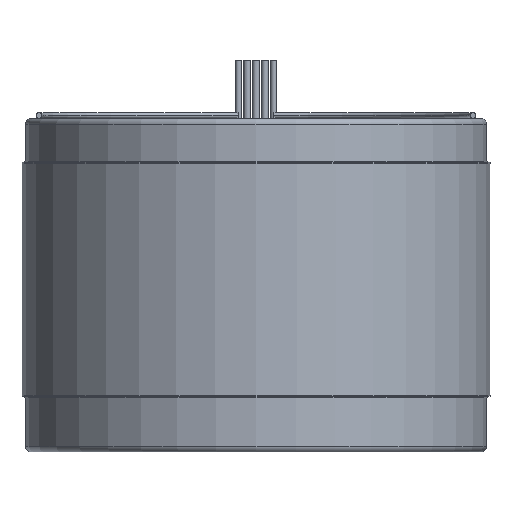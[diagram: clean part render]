
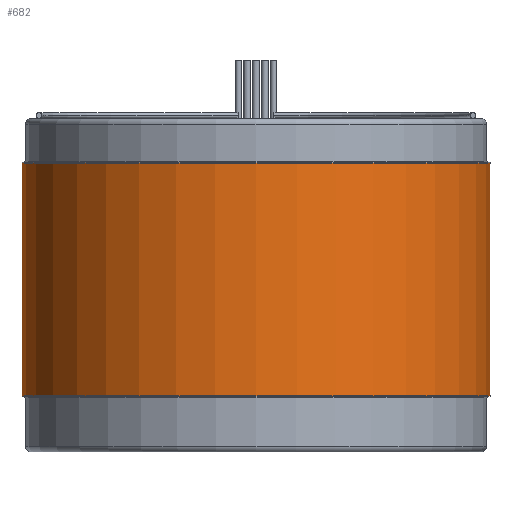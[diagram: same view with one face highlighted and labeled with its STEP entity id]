
A CAD part, front view. The second image highlights one B-rep face of the part: STEP entity #682.
In plain terms, the highlighted cylindrical face has radius 101.6 mm (diameter 203.2 mm), a partial arc.
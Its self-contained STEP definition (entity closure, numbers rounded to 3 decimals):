
#18 = DIRECTION ( 'NONE',  ( 0., 0., 1. ) ) ;
#102 = ORIENTED_EDGE ( 'NONE', *, *, #436, .F. ) ;
#390 = DIRECTION ( 'NONE',  ( 1., 0., 0. ) ) ;
#435 = LINE ( 'NONE', #2038, #572 ) ;
#436 = EDGE_CURVE ( 'NONE', #1177, #2438, #1956, .T. ) ;
#539 = FACE_OUTER_BOUND ( 'NONE', #2129, .T. ) ;
#572 = VECTOR ( 'NONE', #1524, 1000. ) ;
#612 = LINE ( 'NONE', #1816, #1470 ) ;
#682 = ADVANCED_FACE ( 'NONE', ( #539 ), #3362, .T. ) ;
#686 = AXIS2_PLACEMENT_3D ( 'NONE', #2095, #3115, #2881 ) ;
#743 = AXIS2_PLACEMENT_3D ( 'NONE', #3110, #2304, #390 ) ;
#1015 = VERTEX_POINT ( 'NONE', #1574 ) ;
#1177 = VERTEX_POINT ( 'NONE', #2530 ) ;
#1335 = DIRECTION ( 'NONE',  ( 1., 0., 0. ) ) ;
#1354 = ORIENTED_EDGE ( 'NONE', *, *, #2196, .F. ) ;
#1470 = VECTOR ( 'NONE', #1764, 1000. ) ;
#1489 = EDGE_CURVE ( 'NONE', #1177, #2914, #435, .T. ) ;
#1524 = DIRECTION ( 'NONE',  ( 0., 0., -1. ) ) ;
#1574 = CARTESIAN_POINT ( 'NONE',  ( 101.6, 0., -50.444 ) ) ;
#1635 = CARTESIAN_POINT ( 'NONE',  ( 0., 0., -50.444 ) ) ;
#1764 = DIRECTION ( 'NONE',  ( 0., 0., -1. ) ) ;
#1816 = CARTESIAN_POINT ( 'NONE',  ( 101.6, 0., 50.444 ) ) ;
#1880 = CARTESIAN_POINT ( 'NONE',  ( 101.6, 0., 50.444 ) ) ;
#1939 = CIRCLE ( 'NONE', #3294, 101.6 ) ;
#1956 = CIRCLE ( 'NONE', #743, 101.6 ) ;
#2010 = CARTESIAN_POINT ( 'NONE',  ( -101.6, 0., -50.444 ) ) ;
#2038 = CARTESIAN_POINT ( 'NONE',  ( -101.6, 0., 50.444 ) ) ;
#2095 = CARTESIAN_POINT ( 'NONE',  ( 0., 0., 50.444 ) ) ;
#2129 = EDGE_LOOP ( 'NONE', ( #1354, #102, #2826, #2218 ) ) ;
#2196 = EDGE_CURVE ( 'NONE', #2438, #1015, #612, .T. ) ;
#2218 = ORIENTED_EDGE ( 'NONE', *, *, #2382, .T. ) ;
#2304 = DIRECTION ( 'NONE',  ( 0., 0., 1. ) ) ;
#2382 = EDGE_CURVE ( 'NONE', #2914, #1015, #1939, .T. ) ;
#2438 = VERTEX_POINT ( 'NONE', #1880 ) ;
#2530 = CARTESIAN_POINT ( 'NONE',  ( -101.6, 0., 50.444 ) ) ;
#2826 = ORIENTED_EDGE ( 'NONE', *, *, #1489, .T. ) ;
#2881 = DIRECTION ( 'NONE',  ( -1., 0., 0. ) ) ;
#2914 = VERTEX_POINT ( 'NONE', #2010 ) ;
#3110 = CARTESIAN_POINT ( 'NONE',  ( 0., 0., 50.444 ) ) ;
#3115 = DIRECTION ( 'NONE',  ( 0., 0., -1. ) ) ;
#3294 = AXIS2_PLACEMENT_3D ( 'NONE', #1635, #18, #1335 ) ;
#3362 = CYLINDRICAL_SURFACE ( 'NONE', #686, 101.6 ) ;
